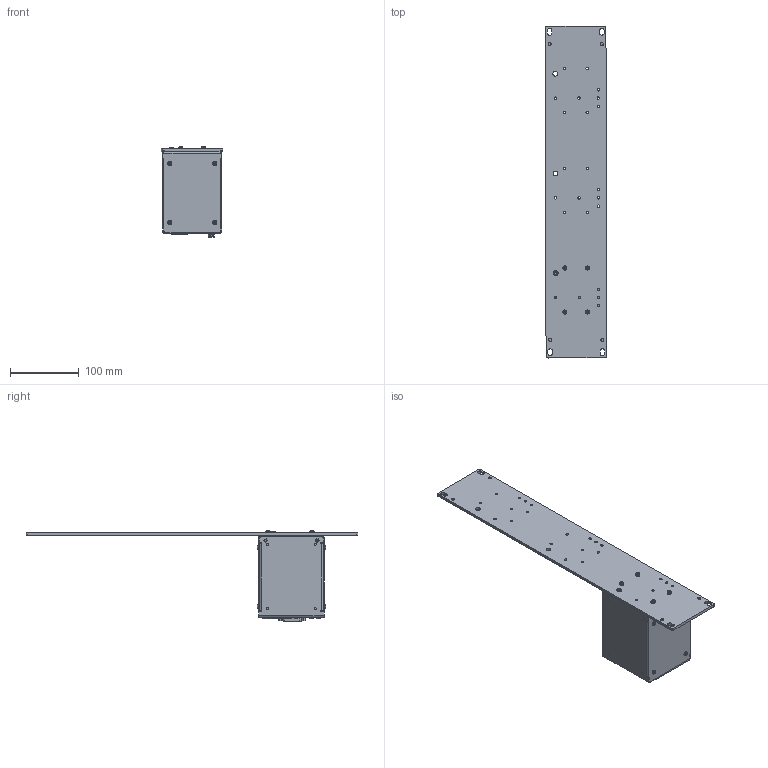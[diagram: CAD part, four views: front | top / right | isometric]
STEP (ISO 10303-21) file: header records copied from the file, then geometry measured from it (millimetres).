
FILE_DESCRIPTION(/* description */ (''),/* implementation_level */ '2;1');
FILE_NAME(/* name */ 'PSC ANY-EXT_RA19-3x.stp',/* time_stamp */ '2024-12-02T08:33:58+01:00',/* author */ ('Simon'),/* organization */ (''),/* preprocessor_version */ 'ST-DEVELOPER v19.2',/* originating_system */ 'Autodesk Inventor 2024',/* authorisation */ '');
FILE_SCHEMA (('AUTOMOTIVE_DESIGN { 1 0 10303 214 3 1 1 }'));
Products named in the file (1): _Assembly anybus-ext_Simplify_1
Bounding box: 89.09 x 482.67 x 131.09 mm (x, y, z)
Volume: 1069823 mm3; surface area: 165918.4 mm2
Topology: 1 solids, 190 shells, 4333 faces, 11820 edges, 7873 vertices
Faces by surface type: plane 3078, cylinder 644, bspline 470, cone 106, torus 35
Full cylindrical faces by diameter (mm): 0.43 x50, 0.6 x3, 0.7 x1, 1 x15, 2.156 x2, 2.459 x8, 2.5 x2, 2.75 x2, 3.1 x4, 3.2 x2, 3.5 x23, 4 x9, 4.14 x4, 4.3 x4, 4.5 x4, 5.8 x1, 6 x24, 6.2 x3, 7 x3
Entity records: 145871 total; most frequent: CARTESIAN_POINT 33459, ORIENTED_EDGE 22746, DIRECTION 20750, EDGE_CURVE 11850, LINE 8654, VECTOR 8654, VERTEX_POINT 7873, AXIS2_PLACEMENT_3D 6048
